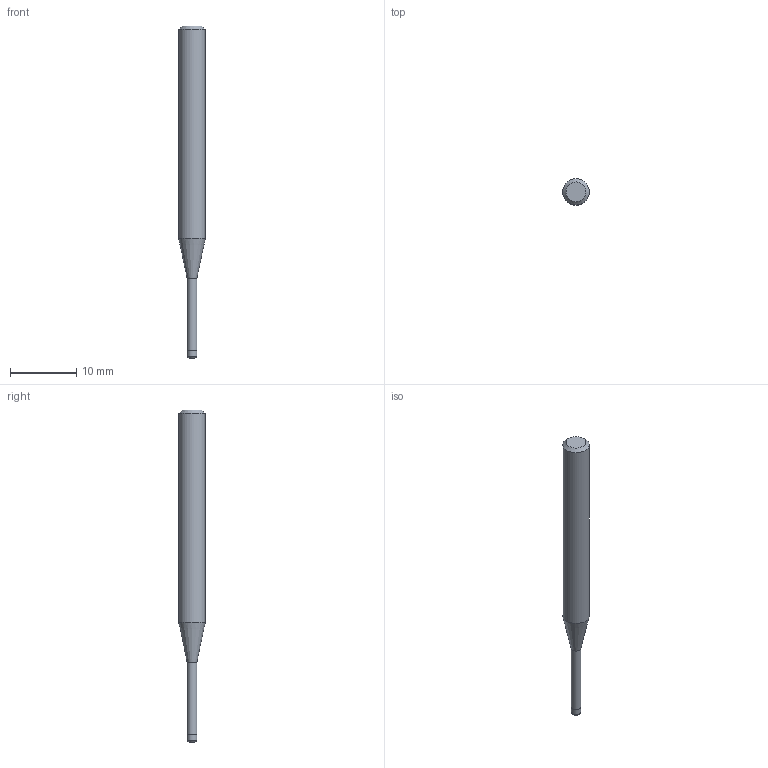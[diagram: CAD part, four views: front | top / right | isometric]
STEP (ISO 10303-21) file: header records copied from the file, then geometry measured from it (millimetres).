
FILE_DESCRIPTION((''),'2;1');
FILE_NAME('C:\Users\nsx150\AppData\Local\Temp\Mastercam 2021\17T8Q8S9EB\TEMP.step','2021-04-21T14:36:08',(''),(''),'STEP Write','Mastercam 2021 ... CNC Software, Inc.','');
FILE_SCHEMA(('AUTOMOTIVE_DESIGN'));
Length unit declared in the file: millimetre
Products named in the file (1): None
Bounding box: 4 x 4 x 50 mm (x, y, z)
Volume: 458.1 mm3; surface area: 522.6 mm2
Topology: 2 solids, 2 shells, 10 faces, 14 edges, 8 vertices
Faces by surface type: plane 4, cylinder 3, cone 2, torus 1
Full cylindrical faces by diameter (mm): 1.45 x1, 1.5 x1, 4 x1
Entity records: 232 total; most frequent: DIRECTION 40, CARTESIAN_POINT 28, AXIS2_PLACEMENT_3D 20, ORIENTED_EDGE 16, EDGE_LOOP 16, STYLED_ITEM 13, ADVANCED_FACE 10, FACE_BOUND 10
